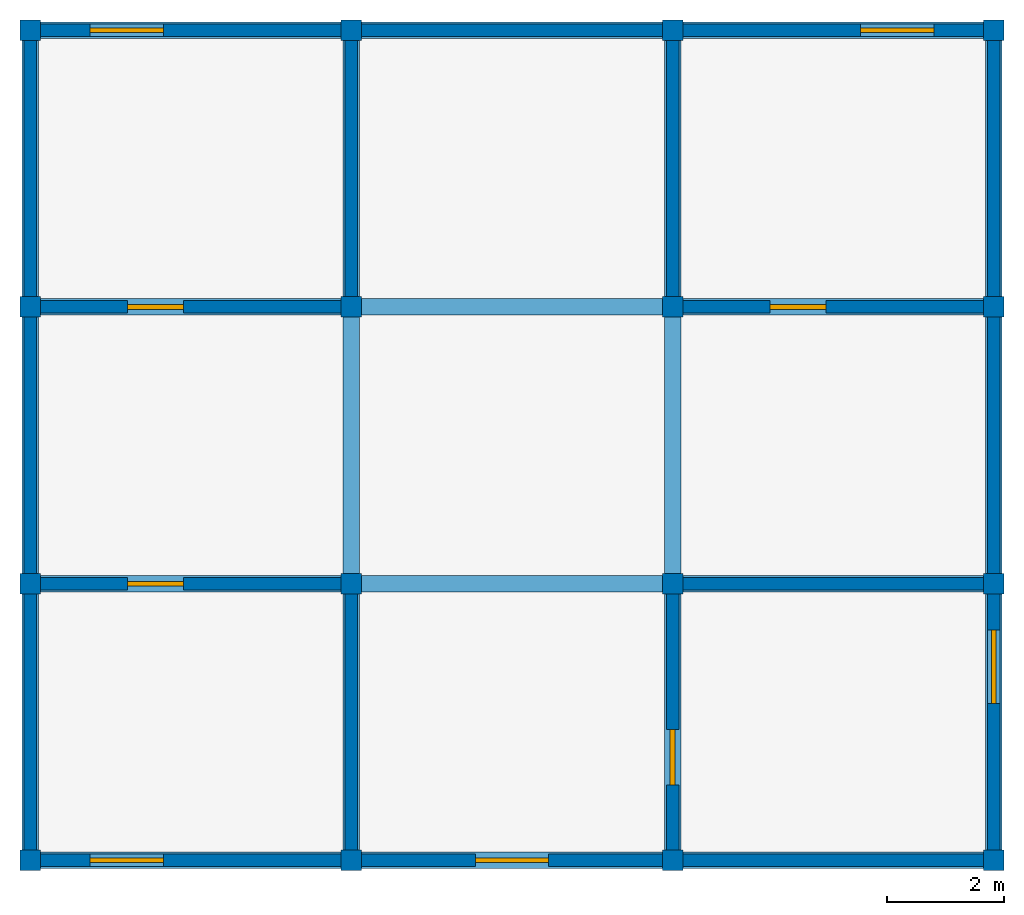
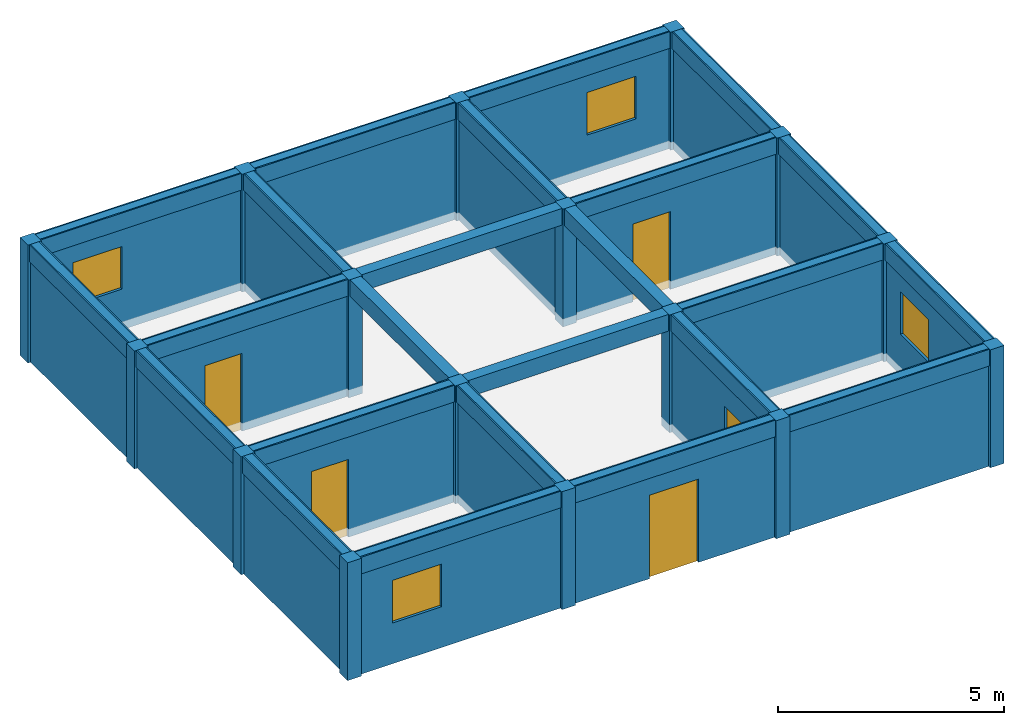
# One storey, incomplete: 24 beams, 20 walls, 16 columns, 5 doors, 4 windows, 9 openings.
"""IFC4X3 building model written with IfcOpenShell, lengths in metres."""

from ifc_helpers import new_model, si_unit, frame, origin_with_axes, origin_2d, place, context, project, spatial, rectangle, extrude, material, element, fill, save


model = new_model("IFC4X3")

# Units and contexts
model_context = context("Model", 3, precision=1e-05, world=origin_with_axes())
ifc_project = project(units=[si_unit("LENGTHUNIT", "METRE"), si_unit("AREAUNIT", "SQUARE_METRE"), si_unit("VOLUMEUNIT", "CUBIC_METRE")], contexts=[model_context])

# Site, building, storey
site = spatial("IfcSite", under=ifc_project, Name="Antofagasta Parcel", CompositionType="ELEMENT")
building = spatial("IfcBuilding", under=site, Name="Nexo Block", CompositionType="ELEMENT")
storey = spatial("IfcBuildingStorey", under=building, Name="Level 1", CompositionType="ELEMENT")

# Columns
ifc_material_1 = material(Name="Timber")
column_1_placement = place(None, frame((-8.2, -7.065, 0.0), z_axis=(0.0, 0.0, 1.0), x_axis=(1.0, 0.0, 0.0)))
element("IfcColumn", 1, at=column_1_placement, inside=storey, material=ifc_material_1, Name="Column 1.1", ObjectType="Corner Column", PredefinedType="USERDEFINED", context=model_context, shape_type="SweptSolid", body=[
    extrude(rectangle(XDim=0.35, YDim=0.35, at=origin_2d()), origin_with_axes(), (0.0, 0.0, 1.0), 3.181),
])
column_2_placement = place(None, frame((-8.2, -2.355, 0.0), z_axis=(0.0, 0.0, 1.0), x_axis=(1.0, 0.0, 0.0)))
element("IfcColumn", 2, at=column_2_placement, inside=storey, material=ifc_material_1, Name="Column 1.2", ObjectType="Structural Column", PredefinedType="PILASTER", context=model_context, shape_type="SweptSolid", body=[
    extrude(rectangle(XDim=0.35, YDim=0.35, at=origin_2d()), origin_with_axes(), (0.0, 0.0, 1.0), 3.181),
])
column_3_placement = place(None, frame((-8.2, 2.355, 0.0), z_axis=(0.0, 0.0, 1.0), x_axis=(1.0, 0.0, 0.0)))
element("IfcColumn", 3, at=column_3_placement, inside=storey, material=ifc_material_1, Name="Column 1.3", ObjectType="Core Column", PredefinedType="PILASTER", context=model_context, shape_type="SweptSolid", body=[
    extrude(rectangle(XDim=0.35, YDim=0.35, at=origin_2d()), origin_with_axes(), (0.0, 0.0, 1.0), 3.181),
])
column_4_placement = place(None, frame((-8.2, 7.065, 0.0), z_axis=(0.0, 0.0, 1.0), x_axis=(1.0, 0.0, 0.0)))
element("IfcColumn", 4, at=column_4_placement, inside=storey, material=ifc_material_1, Name="Column 1.4", ObjectType="Corner Column", PredefinedType="PILASTER", context=model_context, shape_type="SweptSolid", body=[
    extrude(rectangle(XDim=0.35, YDim=0.35, at=origin_2d()), origin_with_axes(), (0.0, 0.0, 1.0), 3.181),
])
column_5_placement = place(None, frame((-2.733, -7.065, 0.0), z_axis=(0.0, 0.0, 1.0), x_axis=(1.0, 0.0, 0.0)))
element("IfcColumn", 5, at=column_5_placement, inside=storey, material=ifc_material_1, Name="Column 1.5", ObjectType="Corner Column", PredefinedType="NOTDEFINED", context=model_context, shape_type="SweptSolid", body=[
    extrude(rectangle(XDim=0.35, YDim=0.35, at=origin_2d()), origin_with_axes(), (0.0, 0.0, 1.0), 3.181),
])
column_6_placement = place(None, frame((-2.733, -2.355, 0.0), z_axis=(0.0, 0.0, 1.0), x_axis=(1.0, 0.0, 0.0)))
element("IfcColumn", 6, at=column_6_placement, inside=storey, material=ifc_material_1, Name="Column 1.6", ObjectType="Facade Column", PredefinedType="USERDEFINED", context=model_context, shape_type="SweptSolid", body=[
    extrude(rectangle(XDim=0.35, YDim=0.35, at=origin_2d()), origin_with_axes(), (0.0, 0.0, 1.0), 3.181),
])
column_7_placement = place(None, frame((-2.733, 2.355, 0.0), z_axis=(0.0, 0.0, 1.0), x_axis=(1.0, 0.0, 0.0)))
element("IfcColumn", 7, at=column_7_placement, inside=storey, material=ifc_material_1, Name="Column 1.7", ObjectType="Corner Column", PredefinedType="USERDEFINED", context=model_context, shape_type="SweptSolid", body=[
    extrude(rectangle(XDim=0.35, YDim=0.35, at=origin_2d()), origin_with_axes(), (0.0, 0.0, 1.0), 3.181),
])
column_8_placement = place(None, frame((-2.733, 7.065, 0.0), z_axis=(0.0, 0.0, 1.0), x_axis=(1.0, 0.0, 0.0)))
element("IfcColumn", 8, at=column_8_placement, inside=storey, material=ifc_material_1, Name="Column 1.8", ObjectType="Facade Column", PredefinedType="PILASTER", context=model_context, shape_type="SweptSolid", body=[
    extrude(rectangle(XDim=0.35, YDim=0.35, at=origin_2d()), origin_with_axes(), (0.0, 0.0, 1.0), 3.181),
])
column_9_placement = place(None, frame((2.734, -7.065, 0.0), z_axis=(0.0, 0.0, 1.0), x_axis=(1.0, 0.0, 0.0)))
element("IfcColumn", 9, at=column_9_placement, inside=storey, material=ifc_material_1, Name="Column 1.9", ObjectType="Corner Column", PredefinedType="COLUMN", context=model_context, shape_type="SweptSolid", body=[
    extrude(rectangle(XDim=0.35, YDim=0.35, at=origin_2d()), origin_with_axes(), (0.0, 0.0, 1.0), 3.181),
])
column_10_placement = place(None, frame((2.734, -2.355, 0.0), z_axis=(0.0, 0.0, 1.0), x_axis=(1.0, 0.0, 0.0)))
element("IfcColumn", 10, at=column_10_placement, inside=storey, material=ifc_material_1, Name="Column 1.10", ObjectType="Corner Column", PredefinedType="USERDEFINED", context=model_context, shape_type="SweptSolid", body=[
    extrude(rectangle(XDim=0.35, YDim=0.35, at=origin_2d()), origin_with_axes(), (0.0, 0.0, 1.0), 3.181),
])
column_11_placement = place(None, frame((2.734, 2.355, 0.0), z_axis=(0.0, 0.0, 1.0), x_axis=(1.0, 0.0, 0.0)))
element("IfcColumn", 11, at=column_11_placement, inside=storey, material=ifc_material_1, Name="Column 1.11", ObjectType="Core Column", PredefinedType="PILASTER", context=model_context, shape_type="SweptSolid", body=[
    extrude(rectangle(XDim=0.35, YDim=0.35, at=origin_2d()), origin_with_axes(), (0.0, 0.0, 1.0), 3.181),
])
for number, where, z_axis, x_axis, name in (
    (12, (2.734, 7.065, 0.0), (0.0, 0.0, 1.0), (1.0, 0.0, 0.0), "Column 1.12"),
    (13, (8.201, -7.065, 0.0), (0.0, 0.0, 1.0), (1.0, 0.0, 0.0), "Column 1.13"),
):
    element("IfcColumn", number, at=place(None, frame(where, z_axis=z_axis, x_axis=x_axis)), inside=storey, material=ifc_material_1, Name=name, ObjectType="Corner Column", PredefinedType="NOTDEFINED", context=model_context, shape_type="SweptSolid", body=[
        extrude(rectangle(XDim=0.35, YDim=0.35, at=origin_2d()), origin_with_axes(), (0.0, 0.0, 1.0), 3.181),
    ])
column_12_placement = place(None, frame((8.201, -2.355, 0.0), z_axis=(0.0, 0.0, 1.0), x_axis=(1.0, 0.0, 0.0)))
element("IfcColumn", 14, at=column_12_placement, inside=storey, material=ifc_material_1, Name="Column 1.14", ObjectType="Corner Column", PredefinedType="USERDEFINED", context=model_context, shape_type="SweptSolid", body=[
    extrude(rectangle(XDim=0.35, YDim=0.35, at=origin_2d()), origin_with_axes(), (0.0, 0.0, 1.0), 3.181),
])
column_13_placement = place(None, frame((8.201, 2.355, 0.0), z_axis=(0.0, 0.0, 1.0), x_axis=(1.0, 0.0, 0.0)))
element("IfcColumn", 15, at=column_13_placement, inside=storey, material=ifc_material_1, Name="Column 1.15", ObjectType="Core Column", PredefinedType="NOTDEFINED", context=model_context, shape_type="SweptSolid", body=[
    extrude(rectangle(XDim=0.35, YDim=0.35, at=origin_2d()), origin_with_axes(), (0.0, 0.0, 1.0), 3.181),
])
column_14_placement = place(None, frame((8.201, 7.065, 0.0), z_axis=(0.0, 0.0, 1.0), x_axis=(1.0, 0.0, 0.0)))
element("IfcColumn", 16, at=column_14_placement, inside=storey, material=ifc_material_1, Name="Column 1.16", ObjectType="Core Column", PredefinedType="USERDEFINED", context=model_context, shape_type="SweptSolid", body=[
    extrude(rectangle(XDim=0.35, YDim=0.35, at=origin_2d()), origin_with_axes(), (0.0, 0.0, 1.0), 3.181),
])

# Beams
beam_1_placement = place(None, frame((-5.466, -7.065, 2.731), z_axis=(0.0, 0.0, 1.0), x_axis=(1.0, 0.0, 0.0)))
element("IfcBeam", 17, at=beam_1_placement, inside=storey, material=ifc_material_1, Name="Beam 1.1", ObjectType="Primary Beam", PredefinedType="HOLLOWCORE", context=model_context, shape_type="SweptSolid", body=[
    extrude(rectangle(XDim=5.467, YDim=0.28, at=origin_2d()), origin_with_axes(), (0.0, 0.0, 1.0), 0.45),
])
beam_2_placement = place(None, frame((0.0, -7.065, 2.731), z_axis=(0.0, 0.0, 1.0), x_axis=(1.0, 0.0, 0.0)))
element("IfcBeam", 18, at=beam_2_placement, inside=storey, material=ifc_material_1, Name="Beam 1.2", ObjectType="Primary Beam", PredefinedType="T_BEAM", context=model_context, shape_type="SweptSolid", body=[
    extrude(rectangle(XDim=5.467, YDim=0.28, at=origin_2d()), origin_with_axes(), (0.0, 0.0, 1.0), 0.45),
])
beam_3_placement = place(None, frame((5.468, -7.065, 2.731), z_axis=(0.0, 0.0, 1.0), x_axis=(1.0, 0.0, 0.0)))
element("IfcBeam", 19, at=beam_3_placement, inside=storey, material=ifc_material_1, Name="Beam 1.3", ObjectType="Secondary Beam", PredefinedType="NOTDEFINED", context=model_context, shape_type="SweptSolid", body=[
    extrude(rectangle(XDim=5.467, YDim=0.28, at=origin_2d()), origin_with_axes(), (0.0, 0.0, 1.0), 0.45),
])
beam_4_placement = place(None, frame((-5.466, -2.355, 2.731), z_axis=(0.0, 0.0, 1.0), x_axis=(1.0, 0.0, 0.0)))
element("IfcBeam", 20, at=beam_4_placement, inside=storey, material=ifc_material_1, Name="Beam 1.4", ObjectType="Primary Beam", PredefinedType="T_BEAM", context=model_context, shape_type="SweptSolid", body=[
    extrude(rectangle(XDim=5.467, YDim=0.28, at=origin_2d()), origin_with_axes(), (0.0, 0.0, 1.0), 0.45),
])
beam_5_placement = place(None, frame((0.0, -2.355, 2.731), z_axis=(0.0, 0.0, 1.0), x_axis=(1.0, 0.0, 0.0)))
element("IfcBeam", 21, at=beam_5_placement, inside=storey, material=ifc_material_1, Name="Beam 1.5", ObjectType="Secondary Beam", PredefinedType="SPANDREL", context=model_context, shape_type="SweptSolid", body=[
    extrude(rectangle(XDim=5.467, YDim=0.28, at=origin_2d()), origin_with_axes(), (0.0, 0.0, 1.0), 0.45),
])
beam_6_placement = place(None, frame((5.468, -2.355, 2.731), z_axis=(0.0, 0.0, 1.0), x_axis=(1.0, 0.0, 0.0)))
element("IfcBeam", 22, at=beam_6_placement, inside=storey, material=ifc_material_1, Name="Beam 1.6", ObjectType="Primary Beam", PredefinedType="JOIST", context=model_context, shape_type="SweptSolid", body=[
    extrude(rectangle(XDim=5.467, YDim=0.28, at=origin_2d()), origin_with_axes(), (0.0, 0.0, 1.0), 0.45),
])
beam_7_placement = place(None, frame((-5.466, 2.355, 2.731), z_axis=(0.0, 0.0, 1.0), x_axis=(1.0, 0.0, 0.0)))
element("IfcBeam", 23, at=beam_7_placement, inside=storey, material=ifc_material_1, Name="Beam 1.7", ObjectType="Rafter Beam", PredefinedType="HOLLOWCORE", context=model_context, shape_type="SweptSolid", body=[
    extrude(rectangle(XDim=5.467, YDim=0.28, at=origin_2d()), origin_with_axes(), (0.0, 0.0, 1.0), 0.45),
])
beam_8_placement = place(None, frame((0.0, 2.355, 2.731), z_axis=(0.0, 0.0, 1.0), x_axis=(1.0, 0.0, 0.0)))
element("IfcBeam", 24, at=beam_8_placement, inside=storey, material=ifc_material_1, Name="Beam 1.8", ObjectType="Transfer Beam", PredefinedType="USERDEFINED", context=model_context, shape_type="SweptSolid", body=[
    extrude(rectangle(XDim=5.467, YDim=0.28, at=origin_2d()), origin_with_axes(), (0.0, 0.0, 1.0), 0.45),
])
beam_9_placement = place(None, frame((5.468, 2.355, 2.731), z_axis=(0.0, 0.0, 1.0), x_axis=(1.0, 0.0, 0.0)))
element("IfcBeam", 25, at=beam_9_placement, inside=storey, material=ifc_material_1, Name="Beam 1.9", ObjectType="Primary Beam", PredefinedType="LINTEL", context=model_context, shape_type="SweptSolid", body=[
    extrude(rectangle(XDim=5.467, YDim=0.28, at=origin_2d()), origin_with_axes(), (0.0, 0.0, 1.0), 0.45),
])
beam_10_placement = place(None, frame((-5.466, 7.065, 2.731), z_axis=(0.0, 0.0, 1.0), x_axis=(1.0, 0.0, 0.0)))
element("IfcBeam", 26, at=beam_10_placement, inside=storey, material=ifc_material_1, Name="Beam 1.10", ObjectType="Ridge Beam", PredefinedType="JOIST", context=model_context, shape_type="SweptSolid", body=[
    extrude(rectangle(XDim=5.467, YDim=0.28, at=origin_2d()), origin_with_axes(), (0.0, 0.0, 1.0), 0.45),
])
beam_11_placement = place(None, frame((0.0, 7.065, 2.731), z_axis=(0.0, 0.0, 1.0), x_axis=(1.0, 0.0, 0.0)))
element("IfcBeam", 27, at=beam_11_placement, inside=storey, material=ifc_material_1, Name="Beam 1.11", ObjectType="Rafter Beam", PredefinedType="USERDEFINED", context=model_context, shape_type="SweptSolid", body=[
    extrude(rectangle(XDim=5.467, YDim=0.28, at=origin_2d()), origin_with_axes(), (0.0, 0.0, 1.0), 0.45),
])
beam_12_placement = place(None, frame((5.468, 7.065, 2.731), z_axis=(0.0, 0.0, 1.0), x_axis=(1.0, 0.0, 0.0)))
element("IfcBeam", 28, at=beam_12_placement, inside=storey, material=ifc_material_1, Name="Beam 1.12", ObjectType="Secondary Beam", PredefinedType="BEAM", context=model_context, shape_type="SweptSolid", body=[
    extrude(rectangle(XDim=5.467, YDim=0.28, at=origin_2d()), origin_with_axes(), (0.0, 0.0, 1.0), 0.45),
])
beam_13_placement = place(None, frame((-8.2, -4.71, 2.731), z_axis=(0.0, 0.0, 1.0), x_axis=(0.0, 1.0, 0.0)))
element("IfcBeam", 29, at=beam_13_placement, inside=storey, material=ifc_material_1, Name="Beam 1.13", ObjectType="Transfer Beam", PredefinedType="BEAM", context=model_context, shape_type="SweptSolid", body=[
    extrude(rectangle(XDim=4.71, YDim=0.28, at=origin_2d()), origin_with_axes(), (0.0, 0.0, 1.0), 0.45),
])
beam_14_placement = place(None, frame((-8.2, 0.0, 2.731), z_axis=(0.0, 0.0, 1.0), x_axis=(0.0, 1.0, 0.0)))
element("IfcBeam", 30, at=beam_14_placement, inside=storey, material=ifc_material_1, Name="Beam 1.14", ObjectType="Rafter Beam", PredefinedType="SPANDREL", context=model_context, shape_type="SweptSolid", body=[
    extrude(rectangle(XDim=4.71, YDim=0.28, at=origin_2d()), origin_with_axes(), (0.0, 0.0, 1.0), 0.45),
])
beam_15_placement = place(None, frame((-8.2, 4.71, 2.731), z_axis=(0.0, 0.0, 1.0), x_axis=(0.0, 1.0, 0.0)))
element("IfcBeam", 31, at=beam_15_placement, inside=storey, material=ifc_material_1, Name="Beam 1.15", ObjectType="Ridge Beam", PredefinedType="BEAM", context=model_context, shape_type="SweptSolid", body=[
    extrude(rectangle(XDim=4.71, YDim=0.28, at=origin_2d()), origin_with_axes(), (0.0, 0.0, 1.0), 0.45),
])
beam_16_placement = place(None, frame((-2.733, -4.71, 2.731), z_axis=(0.0, 0.0, 1.0), x_axis=(0.0, 1.0, 0.0)))
element("IfcBeam", 32, at=beam_16_placement, inside=storey, material=ifc_material_1, Name="Beam 1.16", ObjectType="Primary Beam", PredefinedType="NOTDEFINED", context=model_context, shape_type="SweptSolid", body=[
    extrude(rectangle(XDim=4.71, YDim=0.28, at=origin_2d()), origin_with_axes(), (0.0, 0.0, 1.0), 0.45),
])
beam_17_placement = place(None, frame((-2.733, 0.0, 2.731), z_axis=(0.0, 0.0, 1.0), x_axis=(0.0, 1.0, 0.0)))
element("IfcBeam", 33, at=beam_17_placement, inside=storey, material=ifc_material_1, Name="Beam 1.17", ObjectType="Secondary Beam", PredefinedType="T_BEAM", context=model_context, shape_type="SweptSolid", body=[
    extrude(rectangle(XDim=4.71, YDim=0.28, at=origin_2d()), origin_with_axes(), (0.0, 0.0, 1.0), 0.45),
])
beam_18_placement = place(None, frame((-2.733, 4.71, 2.731), z_axis=(0.0, 0.0, 1.0), x_axis=(0.0, 1.0, 0.0)))
element("IfcBeam", 34, at=beam_18_placement, inside=storey, material=ifc_material_1, Name="Beam 1.18", ObjectType="Transfer Beam", PredefinedType="USERDEFINED", context=model_context, shape_type="SweptSolid", body=[
    extrude(rectangle(XDim=4.71, YDim=0.28, at=origin_2d()), origin_with_axes(), (0.0, 0.0, 1.0), 0.45),
])
beam_19_placement = place(None, frame((2.734, -4.71, 2.731), z_axis=(0.0, 0.0, 1.0), x_axis=(0.0, 1.0, 0.0)))
element("IfcBeam", 35, at=beam_19_placement, inside=storey, material=ifc_material_1, Name="Beam 1.19", ObjectType="Primary Beam", PredefinedType="T_BEAM", context=model_context, shape_type="SweptSolid", body=[
    extrude(rectangle(XDim=4.71, YDim=0.28, at=origin_2d()), origin_with_axes(), (0.0, 0.0, 1.0), 0.45),
])
beam_20_placement = place(None, frame((2.734, 0.0, 2.731), z_axis=(0.0, 0.0, 1.0), x_axis=(0.0, 1.0, 0.0)))
element("IfcBeam", 36, at=beam_20_placement, inside=storey, material=ifc_material_1, Name="Beam 1.20", ObjectType="Ridge Beam", PredefinedType="BEAM", context=model_context, shape_type="SweptSolid", body=[
    extrude(rectangle(XDim=4.71, YDim=0.28, at=origin_2d()), origin_with_axes(), (0.0, 0.0, 1.0), 0.45),
])
beam_21_placement = place(None, frame((2.734, 4.71, 2.731), z_axis=(0.0, 0.0, 1.0), x_axis=(0.0, 1.0, 0.0)))
element("IfcBeam", 37, at=beam_21_placement, inside=storey, material=ifc_material_1, Name="Beam 1.21", ObjectType="Secondary Beam", PredefinedType="JOIST", context=model_context, shape_type="SweptSolid", body=[
    extrude(rectangle(XDim=4.71, YDim=0.28, at=origin_2d()), origin_with_axes(), (0.0, 0.0, 1.0), 0.45),
])
for number, where, z_axis, x_axis, name in (
    (38, (8.201, -4.71, 2.731), (0.0, 0.0, 1.0), (0.0, 1.0, 0.0), "Beam 1.22"),
    (39, (8.201, 0.0, 2.731), (0.0, 0.0, 1.0), (0.0, 1.0, 0.0), "Beam 1.23"),
):
    element("IfcBeam", number, at=place(None, frame(where, z_axis=z_axis, x_axis=x_axis)), inside=storey, material=ifc_material_1, Name=name, ObjectType="Primary Beam", PredefinedType="HOLLOWCORE", context=model_context, shape_type="SweptSolid", body=[
        extrude(rectangle(XDim=4.71, YDim=0.28, at=origin_2d()), origin_with_axes(), (0.0, 0.0, 1.0), 0.45),
    ])
beam_22_placement = place(None, frame((8.201, 4.71, 2.731), z_axis=(0.0, 0.0, 1.0), x_axis=(0.0, 1.0, 0.0)))
element("IfcBeam", 40, at=beam_22_placement, inside=storey, material=ifc_material_1, Name="Beam 1.24", ObjectType="Ridge Beam", PredefinedType="USERDEFINED", context=model_context, shape_type="SweptSolid", body=[
    extrude(rectangle(XDim=4.71, YDim=0.28, at=origin_2d()), origin_with_axes(), (0.0, 0.0, 1.0), 0.45),
])

# Wall, opening, door
ifc_material_2 = material(Name="Brick")
wall_1_placement = place(None, frame((-5.466, -2.355, 0.0), z_axis=(0.0, 0.0, 1.0), x_axis=(1.0, 0.0, 0.0)))
wall_1 = element("IfcWall", 41, at=wall_1_placement, inside=storey, material=ifc_material_2, Name="Wall 1.1", ObjectType="Corridor Partition", PredefinedType="PARAPET", context=model_context, shape_type="SweptSolid", body=[
    extrude(rectangle(XDim=5.467, YDim=0.211475, at=origin_2d()), origin_with_axes(), (0.0, 0.0, 1.0), 3.181),
])
opening_1_placement = place(None, frame((-6.066, -2.355, 0.0), z_axis=(0.0, 0.0, 1.0), x_axis=(1.0, 0.0, 0.0)))
opening_1 = element("IfcOpeningElement", 42, at=opening_1_placement, cuts=wall_1, Name="Door opening 1.1", ObjectType="Door Opening", PredefinedType="OPENING", context=model_context, shape_type="SweptSolid", body=[
    extrude(rectangle(XDim=0.95, YDim=0.291475, at=origin_2d()), origin_with_axes(), (0.0, 0.0, 1.0), 2.1),
])
door_1_placement = place(None, frame((-6.066, -2.355, 0.0), z_axis=(0.0, 0.0, 1.0), x_axis=(1.0, 0.0, 0.0)))
door_1 = element("IfcDoor", 43, at=door_1_placement, inside=storey, Name="Door 1.1", ObjectType="Fire Door", OverallHeight=2.1, OverallWidth=0.95, context=model_context, shape_type="SweptSolid", body=[
    extrude(rectangle(XDim=0.95, YDim=0.08, at=origin_2d()), origin_with_axes(), (0.0, 0.0, 1.0), 2.1),
])
fill(opening_1, door_1)

# Wall
wall_2_placement = place(None, frame((-2.7325, -4.71, 0.0), z_axis=(0.0, 0.0, 1.0), x_axis=(0.0, 1.0, 0.0)))
element("IfcWall", 44, at=wall_2_placement, inside=storey, material=ifc_material_2, Name="Wall 1.2", ObjectType="Corridor Partition", PredefinedType="SHEAR", context=model_context, shape_type="SweptSolid", body=[
    extrude(rectangle(XDim=4.71, YDim=0.211475, at=origin_2d()), origin_with_axes(), (0.0, 0.0, 1.0), 3.181),
])

# Wall, opening, window
wall_3_placement = place(None, frame((-5.466, -7.065, 0.0), z_axis=(0.0, 0.0, 1.0), x_axis=(1.0, 0.0, 0.0)))
wall_3 = element("IfcWall", 45, at=wall_3_placement, inside=storey, material=ifc_material_2, Name="Wall 1.3", ObjectType="Exterior Wall", PredefinedType="PLUMBINGWALL", context=model_context, shape_type="SweptSolid", body=[
    extrude(rectangle(XDim=5.467, YDim=0.211475, at=origin_2d()), origin_with_axes(), (0.0, 0.0, 1.0), 3.181),
])
opening_2_placement = place(None, frame((-6.559, -7.065, 1.1), z_axis=(0.0, 0.0, 1.0), x_axis=(1.0, 0.0, 0.0)))
opening_2 = element("IfcOpeningElement", 46, at=opening_2_placement, cuts=wall_3, Name="Window opening 1.2", ObjectType="Window Opening", PredefinedType="OPENING", context=model_context, shape_type="SweptSolid", body=[
    extrude(rectangle(XDim=1.25, YDim=0.291475, at=origin_2d()), origin_with_axes(), (0.0, 0.0, 1.0), 1.15),
])
window_1_placement = place(None, frame((-6.559, -7.065, 1.1), z_axis=(0.0, 0.0, 1.0), x_axis=(1.0, 0.0, 0.0)))
window_1 = element("IfcWindow", 47, at=window_1_placement, inside=storey, Name="Window 1.2", ObjectType="Sliding Window", OverallHeight=1.15, OverallWidth=1.25, context=model_context, shape_type="SweptSolid", body=[
    extrude(rectangle(XDim=1.25, YDim=0.08, at=origin_2d()), origin_with_axes(), (0.0, 0.0, 1.0), 1.15),
])
fill(opening_2, window_1)

# Wall
ifc_material_3 = material(Name="Gypsum")
wall_4_placement = place(None, frame((-8.1995, -4.71, 0.0), z_axis=(0.0, 0.0, 1.0), x_axis=(0.0, 1.0, 0.0)))
element("IfcWall", 48, at=wall_4_placement, inside=storey, material=ifc_material_3, Name="Wall 1.4", ObjectType="Exterior Wall", PredefinedType="USERDEFINED", context=model_context, shape_type="SweptSolid", body=[
    extrude(rectangle(XDim=4.71, YDim=0.211475, at=origin_2d()), origin_with_axes(), (0.0, 0.0, 1.0), 3.181),
])

# Wall, opening, door
ifc_material_4 = material(Name="CLT")
wall_5_placement = place(None, frame((2.7335, -4.71, 0.0), z_axis=(0.0, 0.0, 1.0), x_axis=(0.0, 1.0, 0.0)))
wall_5 = element("IfcWall", 49, at=wall_5_placement, inside=storey, material=ifc_material_4, Name="Wall 1.5", ObjectType="Corridor Partition", PredefinedType="SHEAR", context=model_context, shape_type="SweptSolid", body=[
    extrude(rectangle(XDim=4.71, YDim=0.211475, at=origin_2d()), origin_with_axes(), (0.0, 0.0, 1.0), 3.181),
])
opening_3_placement = place(None, frame((2.733, -5.31, 0.0), z_axis=(0.0, 0.0, 1.0), x_axis=(0.0, 1.0, 0.0)))
opening_3 = element("IfcOpeningElement", 50, at=opening_3_placement, cuts=wall_5, Name="Door opening 1.3", ObjectType="Door Opening", PredefinedType="OPENING", context=model_context, shape_type="SweptSolid", body=[
    extrude(rectangle(XDim=0.95, YDim=0.291475, at=origin_2d()), origin_with_axes(), (0.0, 0.0, 1.0), 2.1),
])
door_2_placement = place(None, frame((2.733, -5.31, 0.0), z_axis=(0.0, 0.0, 1.0), x_axis=(0.0, 1.0, 0.0)))
door_2 = element("IfcDoor", 51, at=door_2_placement, inside=storey, Name="Door 1.3", ObjectType="Interior Door", OverallHeight=2.1, OverallWidth=0.95, context=model_context, shape_type="SweptSolid", body=[
    extrude(rectangle(XDim=0.95, YDim=0.08, at=origin_2d()), origin_with_axes(), (0.0, 0.0, 1.0), 2.1),
])
fill(opening_3, door_2)

ifc_material_5 = material(Name="Concrete")
wall_6_placement = place(None, frame((0.0, -7.065, 0.0), z_axis=(0.0, 0.0, 1.0), x_axis=(1.0, 0.0, 0.0)))
wall_6 = element("IfcWall", 52, at=wall_6_placement, inside=storey, material=ifc_material_5, Name="Wall 1.6", ObjectType="Exterior Wall", PredefinedType="PARAPET", context=model_context, shape_type="SweptSolid", body=[
    extrude(rectangle(XDim=5.467, YDim=0.211475, at=origin_2d()), origin_with_axes(), (0.0, 0.0, 1.0), 3.181),
])
opening_4_placement = place(None, frame((0.0, -7.065, 0.0), z_axis=(0.0, 0.0, 1.0), x_axis=(1.0, 0.0, 0.0)))
opening_4 = element("IfcOpeningElement", 53, at=opening_4_placement, cuts=wall_6, Name="Door opening 1.9", ObjectType="Door Opening", PredefinedType="OPENING", context=model_context, shape_type="SweptSolid", body=[
    extrude(rectangle(XDim=1.25, YDim=0.291475, at=origin_2d()), origin_with_axes(), (0.0, 0.0, 1.0), 2.25),
])
door_3_placement = place(None, frame((0.0, -7.065, 0.0), z_axis=(0.0, 0.0, 1.0), x_axis=(1.0, 0.0, 0.0)))
door_3 = element("IfcDoor", 54, at=door_3_placement, inside=storey, Name="Door 1.9", ObjectType="Interior Door", OverallHeight=2.25, OverallWidth=1.25, context=model_context, shape_type="SweptSolid", body=[
    extrude(rectangle(XDim=1.25, YDim=0.08, at=origin_2d()), origin_with_axes(), (0.0, 0.0, 1.0), 2.25),
])
fill(opening_4, door_3)

# Wall
wall_7_placement = place(None, frame((5.467, -2.355, 0.0), z_axis=(0.0, 0.0, 1.0), x_axis=(1.0, 0.0, 0.0)))
element("IfcWall", 55, at=wall_7_placement, inside=storey, material=ifc_material_3, Name="Wall 1.7", ObjectType="Corridor Partition", PredefinedType="POLYGONAL", context=model_context, shape_type="SweptSolid", body=[
    extrude(rectangle(XDim=5.467, YDim=0.211475, at=origin_2d()), origin_with_axes(), (0.0, 0.0, 1.0), 3.181),
])

# Wall, opening, window
wall_8_placement = place(None, frame((8.2005, -4.71, 0.0), z_axis=(0.0, 0.0, 1.0), x_axis=(0.0, 1.0, 0.0)))
wall_8 = element("IfcWall", 56, at=wall_8_placement, inside=storey, material=ifc_material_4, Name="Wall 1.8", ObjectType="Exterior Wall", PredefinedType="PLUMBINGWALL", context=model_context, shape_type="SweptSolid", body=[
    extrude(rectangle(XDim=4.71, YDim=0.211475, at=origin_2d()), origin_with_axes(), (0.0, 0.0, 1.0), 3.181),
])
opening_5_placement = place(None, frame((8.2, -3.768, 1.1), z_axis=(0.0, 0.0, 1.0), x_axis=(0.0, 1.0, 0.0)))
opening_5 = element("IfcOpeningElement", 57, at=opening_5_placement, cuts=wall_8, Name="Window opening 1.4", ObjectType="Window Opening", PredefinedType="OPENING", context=model_context, shape_type="SweptSolid", body=[
    extrude(rectangle(XDim=1.25, YDim=0.291475, at=origin_2d()), origin_with_axes(), (0.0, 0.0, 1.0), 1.15),
])
window_2_placement = place(None, frame((8.2, -3.768, 1.1), z_axis=(0.0, 0.0, 1.0), x_axis=(0.0, 1.0, 0.0)))
window_2 = element("IfcWindow", 58, at=window_2_placement, inside=storey, Name="Window 1.4", ObjectType="Curtain Window", OverallHeight=1.15, OverallWidth=1.25, context=model_context, shape_type="SweptSolid", body=[
    extrude(rectangle(XDim=1.25, YDim=0.08, at=origin_2d()), origin_with_axes(), (0.0, 0.0, 1.0), 1.15),
])
fill(opening_5, window_2)

# Wall
wall_9_placement = place(None, frame((5.467, -7.065, 0.0), z_axis=(0.0, 0.0, 1.0), x_axis=(1.0, 0.0, 0.0)))
element("IfcWall", 59, at=wall_9_placement, inside=storey, material=ifc_material_2, Name="Wall 1.9", ObjectType="Exterior Wall", PredefinedType="PLUMBINGWALL", context=model_context, shape_type="SweptSolid", body=[
    extrude(rectangle(XDim=5.467, YDim=0.211475, at=origin_2d()), origin_with_axes(), (0.0, 0.0, 1.0), 3.181),
])

# Wall, opening, door
wall_10_placement = place(None, frame((-5.466, 2.355, 0.0), z_axis=(0.0, 0.0, 1.0), x_axis=(1.0, 0.0, 0.0)))
wall_10 = element("IfcWall", 60, at=wall_10_placement, inside=storey, material=ifc_material_5, Name="Wall 1.10", ObjectType="Corridor Partition", PredefinedType="STANDARD", context=model_context, shape_type="SweptSolid", body=[
    extrude(rectangle(XDim=5.467, YDim=0.211475, at=origin_2d()), origin_with_axes(), (0.0, 0.0, 1.0), 3.181),
])
opening_6_placement = place(None, frame((-6.066, 2.355, 0.0), z_axis=(0.0, 0.0, 1.0), x_axis=(1.0, 0.0, 0.0)))
opening_6 = element("IfcOpeningElement", 61, at=opening_6_placement, cuts=wall_10, Name="Door opening 1.5", ObjectType="Door Opening", PredefinedType="OPENING", context=model_context, shape_type="SweptSolid", body=[
    extrude(rectangle(XDim=0.95, YDim=0.291475, at=origin_2d()), origin_with_axes(), (0.0, 0.0, 1.0), 2.1),
])
door_4_placement = place(None, frame((-6.066, 2.355, 0.0), z_axis=(0.0, 0.0, 1.0), x_axis=(1.0, 0.0, 0.0)))
door_4 = element("IfcDoor", 62, at=door_4_placement, inside=storey, Name="Door 1.5", ObjectType="Interior Door", OverallHeight=2.1, OverallWidth=0.95, context=model_context, shape_type="SweptSolid", body=[
    extrude(rectangle(XDim=0.95, YDim=0.08, at=origin_2d()), origin_with_axes(), (0.0, 0.0, 1.0), 2.1),
])
fill(opening_6, door_4)

# Wall
wall_11_placement = place(None, frame((-8.1995, 0.0, 0.0), z_axis=(0.0, 0.0, 1.0), x_axis=(0.0, 1.0, 0.0)))
element("IfcWall", 63, at=wall_11_placement, inside=storey, material=ifc_material_2, Name="Wall 1.11", ObjectType="Exterior Wall", PredefinedType="STANDARD", context=model_context, shape_type="SweptSolid", body=[
    extrude(rectangle(XDim=4.71, YDim=0.211475, at=origin_2d()), origin_with_axes(), (0.0, 0.0, 1.0), 3.181),
])

# Wall, opening, door
wall_12_placement = place(None, frame((5.467, 2.355, 0.0), z_axis=(0.0, 0.0, 1.0), x_axis=(1.0, 0.0, 0.0)))
wall_12 = element("IfcWall", 64, at=wall_12_placement, inside=storey, material=ifc_material_4, Name="Wall 1.12", ObjectType="Corridor Partition", PredefinedType="USERDEFINED", context=model_context, shape_type="SweptSolid", body=[
    extrude(rectangle(XDim=5.467, YDim=0.211475, at=origin_2d()), origin_with_axes(), (0.0, 0.0, 1.0), 3.181),
])
opening_7_placement = place(None, frame((4.867, 2.355, 0.0), z_axis=(0.0, 0.0, 1.0), x_axis=(1.0, 0.0, 0.0)))
opening_7 = element("IfcOpeningElement", 65, at=opening_7_placement, cuts=wall_12, Name="Door opening 1.7", ObjectType="Door Opening", PredefinedType="OPENING", context=model_context, shape_type="SweptSolid", body=[
    extrude(rectangle(XDim=0.95, YDim=0.291475, at=origin_2d()), origin_with_axes(), (0.0, 0.0, 1.0), 2.1),
])
door_5_placement = place(None, frame((4.867, 2.355, 0.0), z_axis=(0.0, 0.0, 1.0), x_axis=(1.0, 0.0, 0.0)))
door_5 = element("IfcDoor", 66, at=door_5_placement, inside=storey, Name="Door 1.7", ObjectType="Entry Door", OverallHeight=2.1, OverallWidth=0.95, context=model_context, shape_type="SweptSolid", body=[
    extrude(rectangle(XDim=0.95, YDim=0.08, at=origin_2d()), origin_with_axes(), (0.0, 0.0, 1.0), 2.1),
])
fill(opening_7, door_5)

# Wall
wall_13_placement = place(None, frame((8.2005, 0.0, 0.0), z_axis=(0.0, 0.0, 1.0), x_axis=(0.0, 1.0, 0.0)))
element("IfcWall", 67, at=wall_13_placement, inside=storey, material=ifc_material_3, Name="Wall 1.13", ObjectType="Exterior Wall", PredefinedType="PARAPET", context=model_context, shape_type="SweptSolid", body=[
    extrude(rectangle(XDim=4.71, YDim=0.211475, at=origin_2d()), origin_with_axes(), (0.0, 0.0, 1.0), 3.181),
])

# Wall, opening, window
wall_14_placement = place(None, frame((-5.466, 7.065, 0.0), z_axis=(0.0, 0.0, 1.0), x_axis=(1.0, 0.0, 0.0)))
wall_14 = element("IfcWall", 68, at=wall_14_placement, inside=storey, material=ifc_material_3, Name="Wall 1.14", ObjectType="Exterior Wall", PredefinedType="NOTDEFINED", context=model_context, shape_type="SweptSolid", body=[
    extrude(rectangle(XDim=5.467, YDim=0.211475, at=origin_2d()), origin_with_axes(), (0.0, 0.0, 1.0), 3.181),
])
opening_8_placement = place(None, frame((-6.559, 7.065, 1.1), z_axis=(0.0, 0.0, 1.0), x_axis=(1.0, 0.0, 0.0)))
opening_8 = element("IfcOpeningElement", 69, at=opening_8_placement, cuts=wall_14, Name="Window opening 1.6", ObjectType="Window Opening", PredefinedType="OPENING", context=model_context, shape_type="SweptSolid", body=[
    extrude(rectangle(XDim=1.25, YDim=0.291475, at=origin_2d()), origin_with_axes(), (0.0, 0.0, 1.0), 1.15),
])
window_3_placement = place(None, frame((-6.559, 7.065, 1.1), z_axis=(0.0, 0.0, 1.0), x_axis=(1.0, 0.0, 0.0)))
window_3 = element("IfcWindow", 70, at=window_3_placement, inside=storey, Name="Window 1.6", ObjectType="Fixed Window", OverallHeight=1.15, OverallWidth=1.25, context=model_context, shape_type="SweptSolid", body=[
    extrude(rectangle(XDim=1.25, YDim=0.08, at=origin_2d()), origin_with_axes(), (0.0, 0.0, 1.0), 1.15),
])
fill(opening_8, window_3)

# Walls
wall_15_placement = place(None, frame((-2.7325, 4.71, 0.0), z_axis=(0.0, 0.0, 1.0), x_axis=(0.0, 1.0, 0.0)))
element("IfcWall", 71, at=wall_15_placement, inside=storey, material=ifc_material_5, Name="Wall 1.15", ObjectType="Corridor Partition", PredefinedType="STANDARD", context=model_context, shape_type="SweptSolid", body=[
    extrude(rectangle(XDim=4.71, YDim=0.211475, at=origin_2d()), origin_with_axes(), (0.0, 0.0, 1.0), 3.181),
])
wall_16_placement = place(None, frame((-8.1995, 4.71, 0.0), z_axis=(0.0, 0.0, 1.0), x_axis=(0.0, 1.0, 0.0)))
element("IfcWall", 72, at=wall_16_placement, inside=storey, material=ifc_material_2, Name="Wall 1.16", ObjectType="Exterior Wall", PredefinedType="PARTITIONING", context=model_context, shape_type="SweptSolid", body=[
    extrude(rectangle(XDim=4.71, YDim=0.211475, at=origin_2d()), origin_with_axes(), (0.0, 0.0, 1.0), 3.181),
])
wall_17_placement = place(None, frame((0.0, 7.065, 0.0), z_axis=(0.0, 0.0, 1.0), x_axis=(1.0, 0.0, 0.0)))
element("IfcWall", 73, at=wall_17_placement, inside=storey, material=ifc_material_2, Name="Wall 1.17", ObjectType="Exterior Wall", PredefinedType="SHEAR", context=model_context, shape_type="SweptSolid", body=[
    extrude(rectangle(XDim=5.467, YDim=0.211475, at=origin_2d()), origin_with_axes(), (0.0, 0.0, 1.0), 3.181),
])
wall_18_placement = place(None, frame((2.7335, 4.71, 0.0), z_axis=(0.0, 0.0, 1.0), x_axis=(0.0, 1.0, 0.0)))
element("IfcWall", 74, at=wall_18_placement, inside=storey, material=ifc_material_2, Name="Wall 1.18", ObjectType="Corridor Partition", PredefinedType="MOVABLE", context=model_context, shape_type="SweptSolid", body=[
    extrude(rectangle(XDim=4.71, YDim=0.211475, at=origin_2d()), origin_with_axes(), (0.0, 0.0, 1.0), 3.181),
])

# Wall, opening, window
wall_19_placement = place(None, frame((5.467, 7.065, 0.0), z_axis=(0.0, 0.0, 1.0), x_axis=(1.0, 0.0, 0.0)))
wall_19 = element("IfcWall", 75, at=wall_19_placement, inside=storey, material=ifc_material_3, Name="Wall 1.19", ObjectType="Exterior Wall", PredefinedType="MOVABLE", context=model_context, shape_type="SweptSolid", body=[
    extrude(rectangle(XDim=5.467, YDim=0.211475, at=origin_2d()), origin_with_axes(), (0.0, 0.0, 1.0), 3.181),
])
opening_9_placement = place(None, frame((6.56, 7.065, 1.1), z_axis=(0.0, 0.0, 1.0), x_axis=(1.0, 0.0, 0.0)))
opening_9 = element("IfcOpeningElement", 76, at=opening_9_placement, cuts=wall_19, Name="Window opening 1.8", ObjectType="Window Opening", PredefinedType="OPENING", context=model_context, shape_type="SweptSolid", body=[
    extrude(rectangle(XDim=1.25, YDim=0.291475, at=origin_2d()), origin_with_axes(), (0.0, 0.0, 1.0), 1.15),
])
window_4_placement = place(None, frame((6.56, 7.065, 1.1), z_axis=(0.0, 0.0, 1.0), x_axis=(1.0, 0.0, 0.0)))
window_4 = element("IfcWindow", 77, at=window_4_placement, inside=storey, Name="Window 1.8", ObjectType="Operable Window", OverallHeight=1.15, OverallWidth=1.25, context=model_context, shape_type="SweptSolid", body=[
    extrude(rectangle(XDim=1.25, YDim=0.08, at=origin_2d()), origin_with_axes(), (0.0, 0.0, 1.0), 1.15),
])
fill(opening_9, window_4)

# Wall
wall_20_placement = place(None, frame((8.2005, 4.71, 0.0), z_axis=(0.0, 0.0, 1.0), x_axis=(0.0, 1.0, 0.0)))
element("IfcWall", 78, at=wall_20_placement, inside=storey, material=ifc_material_2, Name="Wall 1.20", ObjectType="Exterior Wall", PredefinedType="PLUMBINGWALL", context=model_context, shape_type="SweptSolid", body=[
    extrude(rectangle(XDim=4.71, YDim=0.211475, at=origin_2d()), origin_with_axes(), (0.0, 0.0, 1.0), 3.181),
])

save(model, "model.ifc")
